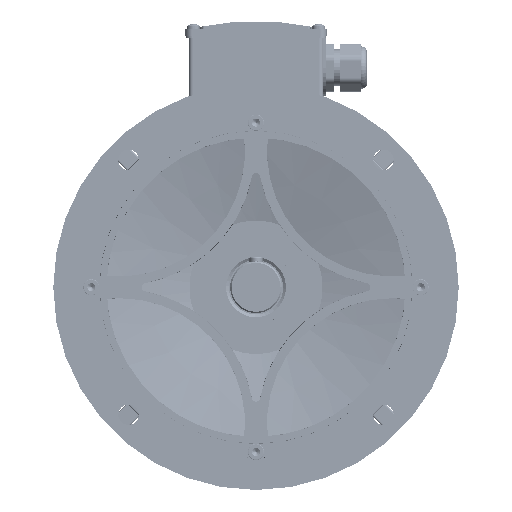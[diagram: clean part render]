
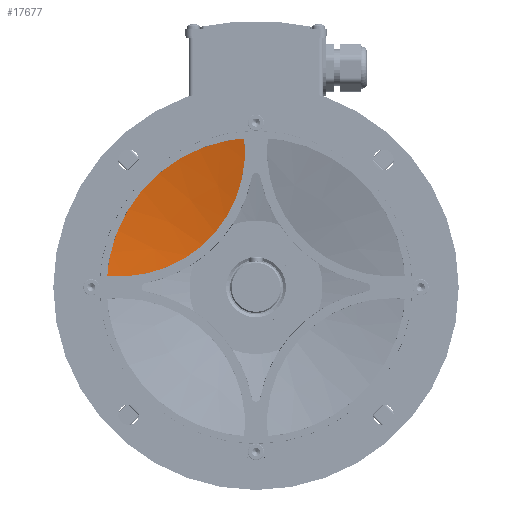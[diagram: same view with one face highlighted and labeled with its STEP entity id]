
A CAD part, left-side view. The second image highlights one B-rep face of the part: STEP entity #17677.
In plain terms, the highlighted conical face has half-angle 77.438 degrees and reference radius 110 mm.
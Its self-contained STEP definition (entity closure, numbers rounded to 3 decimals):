
#137 = VERTEX_POINT ( 'NONE', #37239 ) ;
#2851 = EDGE_LOOP ( 'NONE', ( #9090, #133619 ) ) ;
#5262 = DIRECTION ( 'NONE',  ( 0., 0., 1. ) ) ;
#9090 = ORIENTED_EDGE ( 'NONE', *, *, #12921, .T. ) ;
#10058 = CARTESIAN_POINT ( 'NONE',  ( -5.841, 9.67, 82.699 ) ) ;
#10920 = CARTESIAN_POINT ( 'NONE',  ( 1.077, 25.884, 45.46 ) ) ;
#11750 = CARTESIAN_POINT ( 'NONE',  ( -1.486, 61.568, 16.442 ) ) ;
#12613 = CARTESIAN_POINT ( 'NONE',  ( -11.04, 106.274, 8.194 ) ) ;
#12921 = EDGE_CURVE ( 'NONE', #214011, #137, #25948, .T. ) ;
#17677 = ADVANCED_FACE ( 'NONE', ( #52618 ), #46357, .F. ) ;
#25948 = CIRCLE ( 'NONE', #96128, 110. ) ;
#26666 = CARTESIAN_POINT ( 'NONE',  ( -11.8, 8.553, 109.667 ) ) ;
#29996 = CARTESIAN_POINT ( 'NONE',  ( -4.413, 11.153, 76.048 ) ) ;
#30860 = CARTESIAN_POINT ( 'NONE',  ( 1.685, 32.43, 37.532 ) ) ;
#31712 = CARTESIAN_POINT ( 'NONE',  ( -2.408, 66.311, 14.42 ) ) ;
#37239 = CARTESIAN_POINT ( 'NONE',  ( -11.8, 109.667, 8.553 ) ) ;
#44227 = DIRECTION ( 'NONE',  ( 0., 0., 1. ) ) ;
#46357 = CONICAL_SURFACE ( 'NONE', #88509, 110., 1.352 ) ;
#49021 = CARTESIAN_POINT ( 'NONE',  ( -11.041, 8.195, 106.277 ) ) ;
#49890 = CARTESIAN_POINT ( 'NONE',  ( -2.424, 14.329, 66.416 ) ) ;
#50729 = CARTESIAN_POINT ( 'NONE',  ( 1.662, 37.328, 32.685 ) ) ;
#51571 = CARTESIAN_POINT ( 'NONE',  ( -3.714, 72.732, 12.113 ) ) ;
#52618 = FACE_OUTER_BOUND ( 'NONE', #2851, .T. ) ;
#57670 = B_SPLINE_CURVE_WITH_KNOTS ( 'NONE', 3,
 ( #146981, #49021, #88833, #227577, #108766, #247542, #128787, #10058, #148656, #29996, #168739, #49890, #188678, #69779, #208523, #89671, #228427, #109624, #248387, #129625, #10920, #149504, #30860, #169601, #50729, #189518, #70616, #209370, #90529, #229256, #110470, #249252, #130467, #11750, #150363, #31712, #170421, #51571, #190379, #71461, #210199, #91370, #230115, #111304, #250112, #131327, #12613, #151207 ),
 .UNSPECIFIED., .F., .F.,
 ( 4, 2, 2, 2, 2, 2, 2, 2, 2, 2, 2, 2, 2, 2, 2, 2, 2, 2, 2, 2, 2, 2, 2, 4 ),
 ( 0., 0.01, 0.021, 0.026, 0.031, 0.041, 0.052, 0.057, 0.06, 0.062, 0.073, 0.083, 0.088, 0.091, 0.093, 0.104, 0.114, 0.119, 0.124, 0.135, 0.145, 0.15, 0.155, 0.166 ),
 .UNSPECIFIED. ) ;
#69779 = CARTESIAN_POINT ( 'NONE',  ( -0.953, 17.831, 58.683 ) ) ;
#70616 = CARTESIAN_POINT ( 'NONE',  ( 1.535, 39.92, 30.379 ) ) ;
#71461 = CARTESIAN_POINT ( 'NONE',  ( -5.812, 82.577, 9.646 ) ) ;
#88509 = AXIS2_PLACEMENT_3D ( 'NONE', #242714, #123946, #44227 ) ;
#88833 = CARTESIAN_POINT ( 'NONE',  ( -10.286, 8.027, 102.894 ) ) ;
#89671 = CARTESIAN_POINT ( 'NONE',  ( -0.298, 19.855, 54.906 ) ) ;
#90529 = CARTESIAN_POINT ( 'NONE',  ( 1.392, 41.925, 28.697 ) ) ;
#91370 = CARTESIAN_POINT ( 'NONE',  ( -7.649, 90.98, 8.471 ) ) ;
#96128 = AXIS2_PLACEMENT_3D ( 'NONE', #242741, #123969, #5262 ) ;
#108766 = CARTESIAN_POINT ( 'NONE',  ( -8.043, 8.265, 92.775 ) ) ;
#109624 = CARTESIAN_POINT ( 'NONE',  ( 0.065, 21.156, 52.668 ) ) ;
#110470 = CARTESIAN_POINT ( 'NONE',  ( 0.743, 48.142, 23.984 ) ) ;
#111304 = CARTESIAN_POINT ( 'NONE',  ( -8.775, 96.083, 8.111 ) ) ;
#123946 = DIRECTION ( 'NONE',  ( -1., 0., 0. ) ) ;
#123969 = DIRECTION ( 'NONE',  ( -1., 0., 0. ) ) ;
#128787 = CARTESIAN_POINT ( 'NONE',  ( -6.57, 9.091, 86.054 ) ) ;
#129625 = CARTESIAN_POINT ( 'NONE',  ( 0.727, 23.899, 48.264 ) ) ;
#130467 = CARTESIAN_POINT ( 'NONE',  ( -0.632, 56.941, 18.676 ) ) ;
#131327 = CARTESIAN_POINT ( 'NONE',  ( -10.283, 102.879, 8.026 ) ) ;
#133619 = ORIENTED_EDGE ( 'NONE', *, *, #142624, .F. ) ;
#142624 = EDGE_CURVE ( 'NONE', #214011, #137, #57670, .T. ) ;
#146981 = CARTESIAN_POINT ( 'NONE',  ( -11.8, 8.553, 109.667 ) ) ;
#148656 = CARTESIAN_POINT ( 'NONE',  ( -5.479, 10.007, 81.02 ) ) ;
#149504 = CARTESIAN_POINT ( 'NONE',  ( 1.557, 30.15, 40.094 ) ) ;
#150363 = CARTESIAN_POINT ( 'NONE',  ( -1.785, 63.135, 15.739 ) ) ;
#151207 = CARTESIAN_POINT ( 'NONE',  ( -11.8, 109.667, 8.553 ) ) ;
#168739 = CARTESIAN_POINT ( 'NONE',  ( -3.728, 12.094, 72.796 ) ) ;
#169601 = CARTESIAN_POINT ( 'NONE',  ( 1.691, 36.076, 33.874 ) ) ;
#170421 = CARTESIAN_POINT ( 'NONE',  ( -2.729, 67.908, 13.808 ) ) ;
#188678 = CARTESIAN_POINT ( 'NONE',  ( -1.805, 15.621, 63.287 ) ) ;
#189518 = CARTESIAN_POINT ( 'NONE',  ( 1.573, 39.265, 30.949 ) ) ;
#190379 = CARTESIAN_POINT ( 'NONE',  ( -4.4, 75.987, 11.17 ) ) ;
#208523 = CARTESIAN_POINT ( 'NONE',  ( -0.681, 18.612, 57.163 ) ) ;
#209370 = CARTESIAN_POINT ( 'NONE',  ( 1.445, 41.25, 29.253 ) ) ;
#210199 = CARTESIAN_POINT ( 'NONE',  ( -6.538, 85.913, 9.065 ) ) ;
#214011 = VERTEX_POINT ( 'NONE', #26666 ) ;
#227577 = CARTESIAN_POINT ( 'NONE',  ( -8.787, 8.062, 96.143 ) ) ;
#228427 = CARTESIAN_POINT ( 'NONE',  ( -0.174, 20.28, 54.158 ) ) ;
#229256 = CARTESIAN_POINT ( 'NONE',  ( 1.093, 45.328, 25.979 ) ) ;
#230115 = CARTESIAN_POINT ( 'NONE',  ( -8.024, 92.683, 8.319 ) ) ;
#242714 = CARTESIAN_POINT ( 'NONE',  ( -11.8, 0., 0. ) ) ;
#242741 = CARTESIAN_POINT ( 'NONE',  ( -11.8, 0., 0. ) ) ;
#247542 = CARTESIAN_POINT ( 'NONE',  ( -6.937, 8.85, 87.733 ) ) ;
#248387 = CARTESIAN_POINT ( 'NONE',  ( 0.18, 21.606, 51.926 ) ) ;
#249252 = CARTESIAN_POINT ( 'NONE',  ( -0.12, 53.948, 20.332 ) ) ;
#250112 = CARTESIAN_POINT ( 'NONE',  ( -9.151, 97.783, 8.055 ) ) ;
